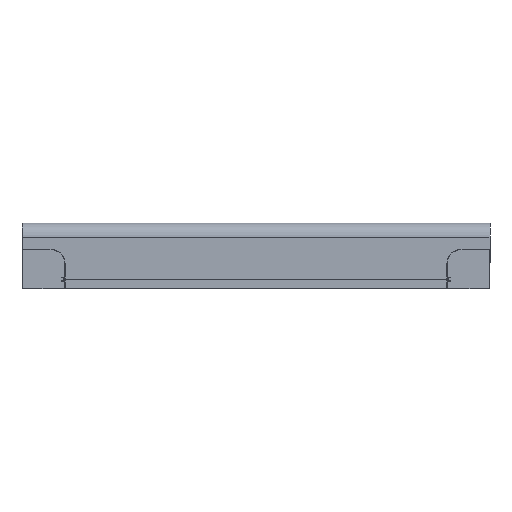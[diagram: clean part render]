
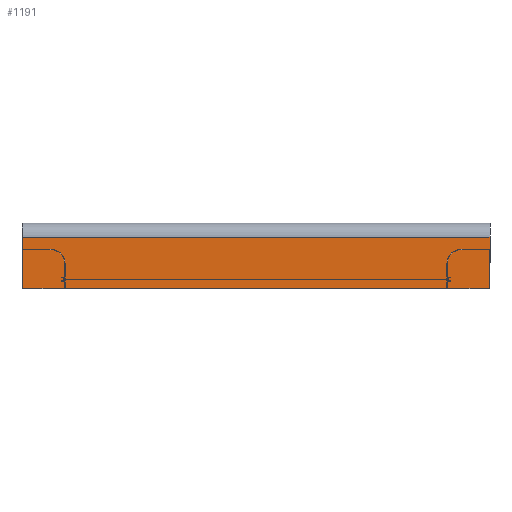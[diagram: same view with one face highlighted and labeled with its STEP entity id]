
A CAD part, front view. The second image highlights one B-rep face of the part: STEP entity #1191.
In plain terms, the highlighted planar face has unit normal (0, -1, 0).
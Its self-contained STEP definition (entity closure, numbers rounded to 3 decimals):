
#70 = EDGE_LOOP ( 'NONE', ( #730, #85, #430, #2511 ) ) ;
#85 = ORIENTED_EDGE ( 'NONE', *, *, #1369, .F. ) ;
#212 = EDGE_CURVE ( 'NONE', #1556, #1442, #4262, .T. ) ;
#320 = PLANE ( 'NONE',  #1656 ) ;
#430 = ORIENTED_EDGE ( 'NONE', *, *, #737, .F. ) ;
#730 = ORIENTED_EDGE ( 'NONE', *, *, #2926, .T. ) ;
#737 = EDGE_CURVE ( 'NONE', #1556, #4144, #2873, .T. ) ;
#960 = DIRECTION ( 'NONE',  ( 0., 0., -1. ) ) ;
#1191 = ADVANCED_FACE ( 'NONE', ( #2619 ), #320, .F. ) ;
#1369 = EDGE_CURVE ( 'NONE', #4144, #1638, #4555, .T. ) ;
#1442 = VERTEX_POINT ( 'NONE', #1982 ) ;
#1556 = VERTEX_POINT ( 'NONE', #4374 ) ;
#1636 = CARTESIAN_POINT ( 'NONE',  ( 2500., 3000., 0. ) ) ;
#1638 = VERTEX_POINT ( 'NONE', #3680 ) ;
#1656 = AXIS2_PLACEMENT_3D ( 'NONE', #4574, #3382, #3032 ) ;
#1764 = CARTESIAN_POINT ( 'NONE',  ( 2500., 3000., 0. ) ) ;
#1863 = DIRECTION ( 'NONE',  ( 0., 0., -1. ) ) ;
#1941 = CARTESIAN_POINT ( 'NONE',  ( 2500., 3000., 0. ) ) ;
#1982 = CARTESIAN_POINT ( 'NONE',  ( 0., 3000., 275. ) ) ;
#2296 = CARTESIAN_POINT ( 'NONE',  ( 0., 3000., 0. ) ) ;
#2511 = ORIENTED_EDGE ( 'NONE', *, *, #212, .T. ) ;
#2619 = FACE_OUTER_BOUND ( 'NONE', #70, .T. ) ;
#2873 = LINE ( 'NONE', #1764, #2927 ) ;
#2926 = EDGE_CURVE ( 'NONE', #1442, #1638, #3391, .T. ) ;
#2927 = VECTOR ( 'NONE', #960, 1000. ) ;
#2990 = CARTESIAN_POINT ( 'NONE',  ( 2500., 3000., 275. ) ) ;
#3032 = DIRECTION ( 'NONE',  ( 0., 0., 1. ) ) ;
#3121 = DIRECTION ( 'NONE',  ( -1., 0., 0. ) ) ;
#3382 = DIRECTION ( 'NONE',  ( 0., 1., 0. ) ) ;
#3391 = LINE ( 'NONE', #2296, #4231 ) ;
#3409 = DIRECTION ( 'NONE',  ( -1., 0., 0. ) ) ;
#3680 = CARTESIAN_POINT ( 'NONE',  ( 0., 3000., 0. ) ) ;
#3962 = VECTOR ( 'NONE', #3409, 1000. ) ;
#4010 = VECTOR ( 'NONE', #3121, 1000. ) ;
#4144 = VERTEX_POINT ( 'NONE', #1941 ) ;
#4231 = VECTOR ( 'NONE', #1863, 1000. ) ;
#4262 = LINE ( 'NONE', #2990, #3962 ) ;
#4374 = CARTESIAN_POINT ( 'NONE',  ( 2500., 3000., 275. ) ) ;
#4555 = LINE ( 'NONE', #1636, #4010 ) ;
#4574 = CARTESIAN_POINT ( 'NONE',  ( 2500., 3000., 0. ) ) ;
